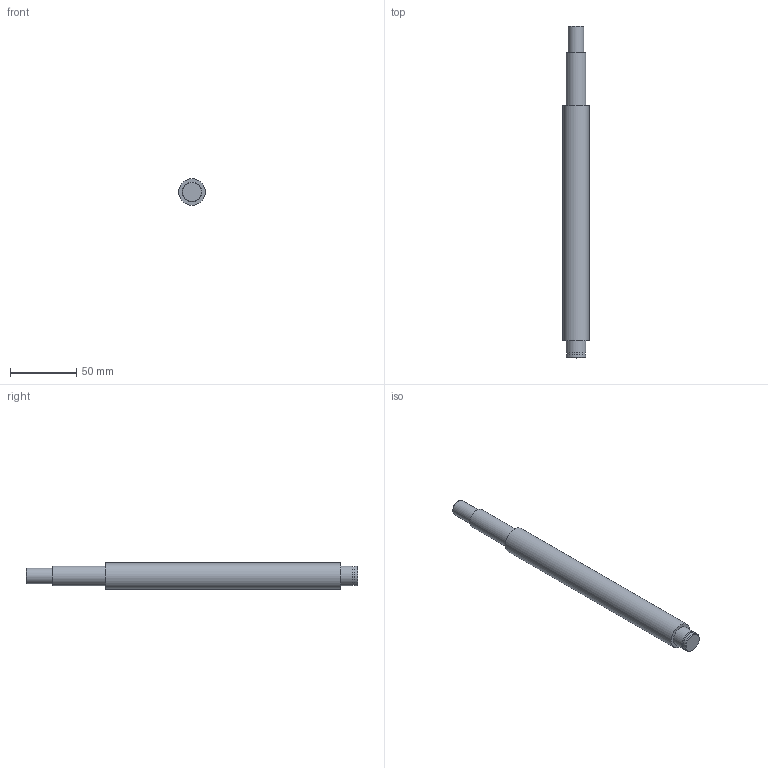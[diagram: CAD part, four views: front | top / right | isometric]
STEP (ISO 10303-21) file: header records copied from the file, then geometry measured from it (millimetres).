
FILE_DESCRIPTION(/* description */ (''),/* implementation_level */ '2;1');
FILE_NAME(/* name */ 'C:\Users\David\Desktop\stepFiles\Profilfuehrung\KUS2010x250.stp',/* time_stamp */ '2018-06-24T15:12:46+02:00',/* author */ ('David'),/* organization */ (''),/* preprocessor_version */ 'ST-DEVELOPER v17',/* originating_system */ 'Autodesk Inventor 2019',/* authorisation */ '');
FILE_SCHEMA (('AUTOMOTIVE_DESIGN { 1 0 10303 214 3 1 1 }'));
Length unit declared in the file: millimetre
Products named in the file (1): SFU2005xvaiabel
Bounding box: 20 x 250 x 20 mm (x, y, z)
Volume: 67205.1 mm3; surface area: 15005.3 mm2
Topology: 1 solids, 1 shells, 15 faces, 34 edges, 26 vertices
Faces by surface type: plane 7, cylinder 6, cone 2
Full cylindrical faces by diameter (mm): 12 x1, 14.3 x1, 15 x3, 20 x1
Entity records: 493 total; most frequent: DIRECTION 92, CARTESIAN_POINT 76, ORIENTED_EDGE 68, AXIS2_PLACEMENT_3D 42, EDGE_CURVE 34, CIRCLE 26, VERTEX_POINT 26, EDGE_LOOP 20
